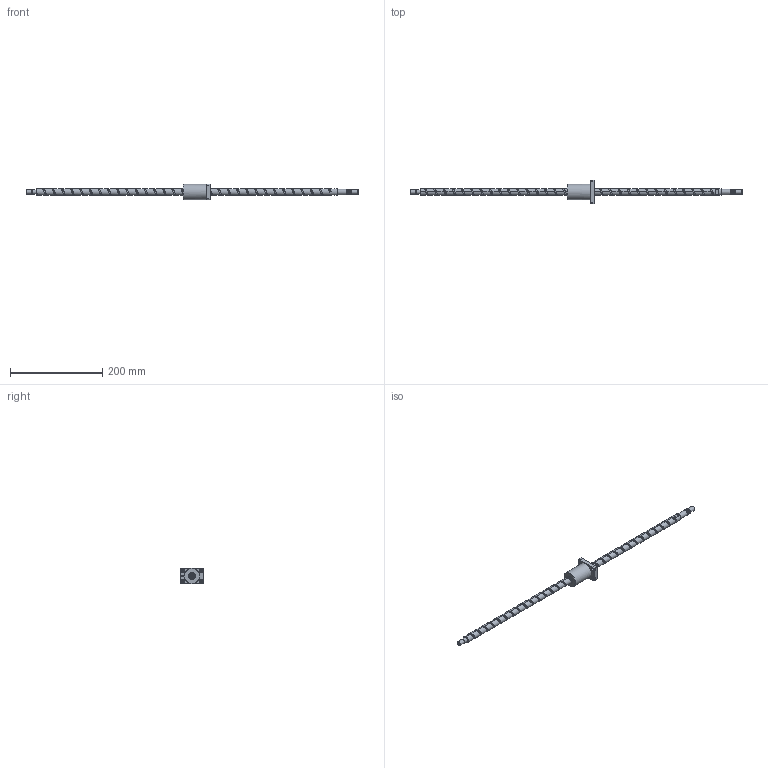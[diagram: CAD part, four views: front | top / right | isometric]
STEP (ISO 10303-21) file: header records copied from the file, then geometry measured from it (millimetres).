
FILE_DESCRIPTION (( 'STEP AP203' ), '1' );
FILE_NAME ('XSVR01520A1DGC5-721-P1.step', '2024-06-03T05:37:25', ( '' ), ( '' ), 'SwSTEP 2.0', 'SolidWorks 2022', '' );
FILE_SCHEMA (( 'CONFIG_CONTROL_DESIGN' ));
Length unit declared in the file: millimetre
Products named in the file (1): XSVR01520A1DGC5-721-P1
Bounding box: 721 x 50 x 34 mm (x, y, z)
Volume: 162880.9 mm3; surface area: 49267.5 mm2
Topology: 2 solids, 2 shells, 162 faces, 440 edges, 288 vertices
Faces by surface type: cylinder 85, plane 43, cone 15, bspline 10, torus 9
Full cylindrical faces by diameter (mm): 4 x1, 4.2 x15, 5 x6, 5.5 x4, 9.5 x4, 9.6 x1, 10 x3, 12 x9, 15 x32, 17 x1, 34 x1
Entity records: 19950 total; most frequent: CARTESIAN_POINT 17822, ORIENTED_EDGE 410, DIRECTION 391, EDGE_CURVE 205, AXIS2_PLACEMENT_3D 168, EDGE_LOOP 153, VERTEX_POINT 150, FACE_OUTER_BOUND 120
